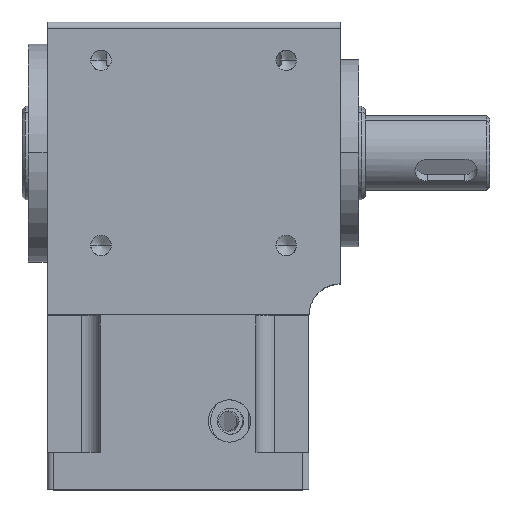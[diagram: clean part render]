
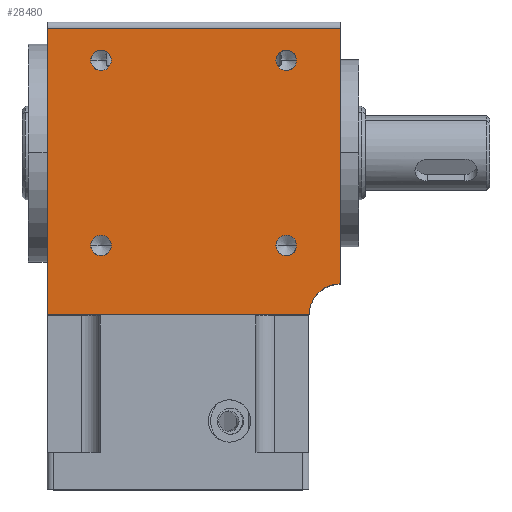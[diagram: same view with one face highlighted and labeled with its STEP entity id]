
A CAD part, top view. The second image highlights one B-rep face of the part: STEP entity #28480.
In plain terms, the highlighted planar face has unit normal (0, 0, 1).
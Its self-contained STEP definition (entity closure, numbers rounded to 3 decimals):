
#31 = AXIS2_PLACEMENT_3D ( 'NONE', #11064, #18756, #18864 ) ;
#397 = CARTESIAN_POINT ( 'NONE',  ( 50., 22.5, 21. ) ) ;
#955 = FACE_BOUND ( 'NONE', #18644, .T. ) ;
#1195 = CARTESIAN_POINT ( 'NONE',  ( 11.651, -12.349, 21. ) ) ;
#1422 = EDGE_CURVE ( 'NONE', #14174, #4187, #26032, .T. ) ;
#1637 = DIRECTION ( 'NONE',  ( 1., 0., 0. ) ) ;
#1690 = DIRECTION ( 'NONE',  ( 0., 0., 1. ) ) ;
#2100 = AXIS2_PLACEMENT_3D ( 'NONE', #1195, #31006, #8573 ) ;
#2115 = CARTESIAN_POINT ( 'NONE',  ( 39.699, 17.349, 21. ) ) ;
#2273 = DIRECTION ( 'NONE',  ( 1., 0., 0. ) ) ;
#2381 = CARTESIAN_POINT ( 'NONE',  ( 11.651, 17.349, 21. ) ) ;
#2524 = FACE_BOUND ( 'NONE', #20380, .T. ) ;
#2669 = EDGE_CURVE ( 'NONE', #20627, #6773, #9511, .T. ) ;
#3299 = DIRECTION ( 'NONE',  ( 0., 0., -1. ) ) ;
#4187 = VERTEX_POINT ( 'NONE', #2115 ) ;
#4507 = AXIS2_PLACEMENT_3D ( 'NONE', #16769, #1690, #19314 ) ;
#4597 = AXIS2_PLACEMENT_3D ( 'NONE', #2381, #29905, #2273 ) ;
#5406 = EDGE_CURVE ( 'NONE', #12247, #9537, #23584, .T. ) ;
#5493 = ORIENTED_EDGE ( 'NONE', *, *, #22933, .F. ) ;
#5528 = DIRECTION ( 'NONE',  ( 0., 0., 1. ) ) ;
#5603 = EDGE_CURVE ( 'NONE', #12196, #8770, #9412, .T. ) ;
#6756 = CARTESIAN_POINT ( 'NONE',  ( 42.999, -12.349, 21. ) ) ;
#6773 = VERTEX_POINT ( 'NONE', #15413 ) ;
#7855 = EDGE_LOOP ( 'NONE', ( #21619, #29538, #19709, #31801, #13077 ) ) ;
#7958 = CIRCLE ( 'NONE', #4507, 1.65 ) ;
#8561 = DIRECTION ( 'NONE',  ( 1., 0., 0. ) ) ;
#8573 = DIRECTION ( 'NONE',  ( 1., 0., 0. ) ) ;
#8770 = VERTEX_POINT ( 'NONE', #6756 ) ;
#8935 = CARTESIAN_POINT ( 'NONE',  ( 3., -23.5, 21. ) ) ;
#9069 = LINE ( 'NONE', #20420, #16556 ) ;
#9319 = ORIENTED_EDGE ( 'NONE', *, *, #15690, .F. ) ;
#9412 = CIRCLE ( 'NONE', #25558, 1.65 ) ;
#9511 = LINE ( 'NONE', #16711, #19740 ) ;
#9537 = VERTEX_POINT ( 'NONE', #19029 ) ;
#9580 = EDGE_CURVE ( 'NONE', #9537, #12247, #17941, .T. ) ;
#10121 = DIRECTION ( 'NONE',  ( 1., 0., 0. ) ) ;
#10195 = ORIENTED_EDGE ( 'NONE', *, *, #1422, .F. ) ;
#10217 = CARTESIAN_POINT ( 'NONE',  ( 10.001, 17.349, 21. ) ) ;
#10597 = ORIENTED_EDGE ( 'NONE', *, *, #13409, .F. ) ;
#11064 = CARTESIAN_POINT ( 'NONE',  ( 41.349, 17.349, 21. ) ) ;
#11185 = AXIS2_PLACEMENT_3D ( 'NONE', #28393, #3299, #13315 ) ;
#11862 = CIRCLE ( 'NONE', #31, 1.65 ) ;
#11876 = EDGE_CURVE ( 'NONE', #20627, #19235, #20240, .T. ) ;
#12196 = VERTEX_POINT ( 'NONE', #17401 ) ;
#12247 = VERTEX_POINT ( 'NONE', #29944 ) ;
#12804 = VERTEX_POINT ( 'NONE', #397 ) ;
#12983 = ORIENTED_EDGE ( 'NONE', *, *, #5406, .F. ) ;
#13077 = ORIENTED_EDGE ( 'NONE', *, *, #30618, .F. ) ;
#13315 = DIRECTION ( 'NONE',  ( -1., 0., 0. ) ) ;
#13409 = EDGE_CURVE ( 'NONE', #8770, #12196, #7958, .T. ) ;
#14174 = VERTEX_POINT ( 'NONE', #16061 ) ;
#15228 = EDGE_CURVE ( 'NONE', #19235, #12804, #9069, .T. ) ;
#15413 = CARTESIAN_POINT ( 'NONE',  ( 45., -23.5, 21. ) ) ;
#15690 = EDGE_CURVE ( 'NONE', #4187, #14174, #11862, .T. ) ;
#16061 = CARTESIAN_POINT ( 'NONE',  ( 42.999, 17.349, 21. ) ) ;
#16170 = DIRECTION ( 'NONE',  ( 0., 0., 1. ) ) ;
#16414 = ORIENTED_EDGE ( 'NONE', *, *, #25945, .F. ) ;
#16556 = VECTOR ( 'NONE', #25533, 1000. ) ;
#16711 = CARTESIAN_POINT ( 'NONE',  ( 53., -23.5, 21. ) ) ;
#16769 = CARTESIAN_POINT ( 'NONE',  ( 41.349, -12.349, 21. ) ) ;
#17099 = FACE_BOUND ( 'NONE', #19174, .T. ) ;
#17401 = CARTESIAN_POINT ( 'NONE',  ( 39.699, -12.349, 21. ) ) ;
#17485 = CARTESIAN_POINT ( 'NONE',  ( 3., 22.5, 21. ) ) ;
#17941 = CIRCLE ( 'NONE', #2100, 1.65 ) ;
#18086 = DIRECTION ( 'NONE',  ( 0., 1., 0. ) ) ;
#18106 = DIRECTION ( 'NONE',  ( 0., 0., 1. ) ) ;
#18644 = EDGE_LOOP ( 'NONE', ( #5493, #16414 ) ) ;
#18756 = DIRECTION ( 'NONE',  ( 0., 0., 1. ) ) ;
#18864 = DIRECTION ( 'NONE',  ( 1., 0., 0. ) ) ;
#18937 = DIRECTION ( 'NONE',  ( 1., 0., 0. ) ) ;
#19029 = CARTESIAN_POINT ( 'NONE',  ( 10.001, -12.349, 21. ) ) ;
#19174 = EDGE_LOOP ( 'NONE', ( #12983, #32506 ) ) ;
#19235 = VERTEX_POINT ( 'NONE', #17485 ) ;
#19314 = DIRECTION ( 'NONE',  ( 1., 0., 0. ) ) ;
#19539 = EDGE_LOOP ( 'NONE', ( #10195, #9319 ) ) ;
#19709 = ORIENTED_EDGE ( 'NONE', *, *, #2669, .T. ) ;
#19740 = VECTOR ( 'NONE', #18937, 1000. ) ;
#19771 = EDGE_CURVE ( 'NONE', #6773, #32218, #27372, .T. ) ;
#20240 = LINE ( 'NONE', #25702, #24895 ) ;
#20380 = EDGE_LOOP ( 'NONE', ( #10597, #30872 ) ) ;
#20420 = CARTESIAN_POINT ( 'NONE',  ( 53., 22.5, 21. ) ) ;
#20627 = VERTEX_POINT ( 'NONE', #8935 ) ;
#21505 = VERTEX_POINT ( 'NONE', #10217 ) ;
#21619 = ORIENTED_EDGE ( 'NONE', *, *, #15228, .F. ) ;
#21806 = AXIS2_PLACEMENT_3D ( 'NONE', #31982, #29157, #1637 ) ;
#22535 = CARTESIAN_POINT ( 'NONE',  ( 11.651, 17.349, 21. ) ) ;
#22933 = EDGE_CURVE ( 'NONE', #28467, #21505, #26498, .T. ) ;
#22954 = LINE ( 'NONE', #31563, #28774 ) ;
#23140 = DIRECTION ( 'NONE',  ( 1., 0., 0. ) ) ;
#23268 = CARTESIAN_POINT ( 'NONE',  ( 41.349, 17.349, 21. ) ) ;
#23318 = CARTESIAN_POINT ( 'NONE',  ( 13.301, 17.349, 21. ) ) ;
#23584 = CIRCLE ( 'NONE', #26616, 1.65 ) ;
#24530 = FACE_BOUND ( 'NONE', #19539, .T. ) ;
#24895 = VECTOR ( 'NONE', #18086, 1000. ) ;
#25077 = CARTESIAN_POINT ( 'NONE',  ( 50., -18.5, 21. ) ) ;
#25523 = DIRECTION ( 'NONE',  ( 1., 0., 0. ) ) ;
#25533 = DIRECTION ( 'NONE',  ( 1., 0., 0. ) ) ;
#25558 = AXIS2_PLACEMENT_3D ( 'NONE', #30512, #5528, #23140 ) ;
#25702 = CARTESIAN_POINT ( 'NONE',  ( 3., 0., 21. ) ) ;
#25945 = EDGE_CURVE ( 'NONE', #21505, #28467, #31617, .T. ) ;
#26032 = CIRCLE ( 'NONE', #27125, 1.65 ) ;
#26498 = CIRCLE ( 'NONE', #4597, 1.65 ) ;
#26616 = AXIS2_PLACEMENT_3D ( 'NONE', #28709, #16170, #8561 ) ;
#27125 = AXIS2_PLACEMENT_3D ( 'NONE', #23268, #18106, #25523 ) ;
#27302 = DIRECTION ( 'NONE',  ( 0., 0., 1. ) ) ;
#27372 = CIRCLE ( 'NONE', #21806, 5. ) ;
#27639 = FACE_OUTER_BOUND ( 'NONE', #7855, .T. ) ;
#27792 = AXIS2_PLACEMENT_3D ( 'NONE', #22535, #27302, #10121 ) ;
#28285 = PLANE ( 'NONE',  #11185 ) ;
#28393 = CARTESIAN_POINT ( 'NONE',  ( 53., -23.5, 21. ) ) ;
#28467 = VERTEX_POINT ( 'NONE', #23318 ) ;
#28480 = ADVANCED_FACE ( 'NONE', ( #27639, #955, #17099, #2524, #24530 ), #28285, .F. ) ;
#28709 = CARTESIAN_POINT ( 'NONE',  ( 11.651, -12.349, 21. ) ) ;
#28774 = VECTOR ( 'NONE', #29271, 1000. ) ;
#29157 = DIRECTION ( 'NONE',  ( 0., 0., -1. ) ) ;
#29271 = DIRECTION ( 'NONE',  ( 0., -1., 0. ) ) ;
#29538 = ORIENTED_EDGE ( 'NONE', *, *, #11876, .F. ) ;
#29905 = DIRECTION ( 'NONE',  ( 0., 0., 1. ) ) ;
#29944 = CARTESIAN_POINT ( 'NONE',  ( 13.301, -12.349, 21. ) ) ;
#30512 = CARTESIAN_POINT ( 'NONE',  ( 41.349, -12.349, 21. ) ) ;
#30618 = EDGE_CURVE ( 'NONE', #12804, #32218, #22954, .T. ) ;
#30872 = ORIENTED_EDGE ( 'NONE', *, *, #5603, .F. ) ;
#31006 = DIRECTION ( 'NONE',  ( 0., 0., 1. ) ) ;
#31563 = CARTESIAN_POINT ( 'NONE',  ( 50., 0., 21. ) ) ;
#31617 = CIRCLE ( 'NONE', #27792, 1.65 ) ;
#31801 = ORIENTED_EDGE ( 'NONE', *, *, #19771, .T. ) ;
#31982 = CARTESIAN_POINT ( 'NONE',  ( 50., -23.5, 21. ) ) ;
#32218 = VERTEX_POINT ( 'NONE', #25077 ) ;
#32506 = ORIENTED_EDGE ( 'NONE', *, *, #9580, .F. ) ;
